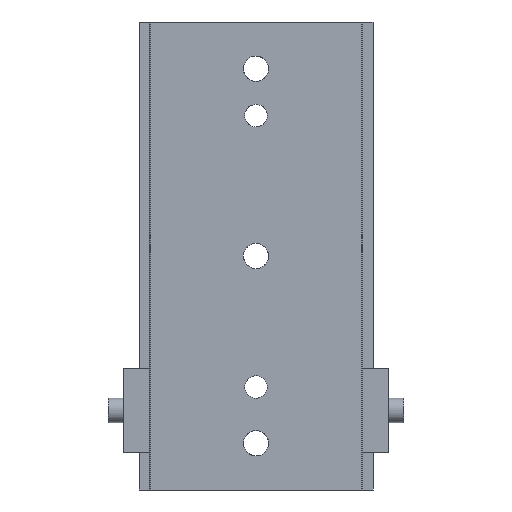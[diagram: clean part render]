
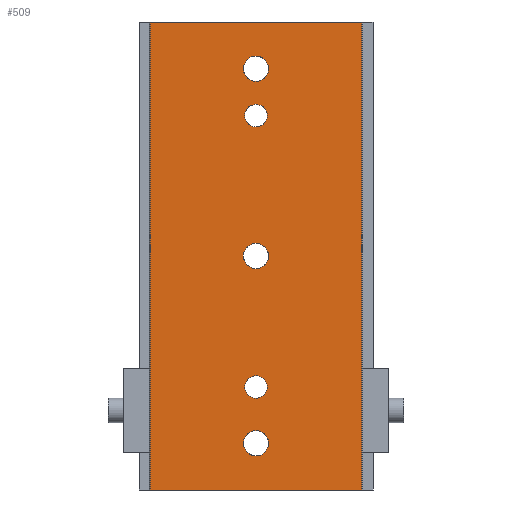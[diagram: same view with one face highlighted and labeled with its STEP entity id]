
A CAD part, front view. The second image highlights one B-rep face of the part: STEP entity #509.
In plain terms, the highlighted planar face has unit normal (0, -1, 0).
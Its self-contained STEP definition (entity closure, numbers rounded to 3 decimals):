
#77=CARTESIAN_POINT('Vertex',(-590.473,748.188,31.75)) ;
#80=CARTESIAN_POINT('Axis2P3D Location',(-590.473,748.188,25.)) ;
#84=CARTESIAN_POINT('Vertex',(-597.223,748.188,25.)) ;
#87=CARTESIAN_POINT('Axis2P3D Location',(-590.473,748.188,25.)) ;
#91=CARTESIAN_POINT('Vertex',(-590.473,748.188,18.25)) ;
#307=CARTESIAN_POINT('Axis2P3D Location',(-590.473,748.188,25.)) ;
#311=CARTESIAN_POINT('Vertex',(-583.723,748.188,25.)) ;
#314=CARTESIAN_POINT('Axis2P3D Location',(-590.473,748.188,25.)) ;
#328=CARTESIAN_POINT('Axis2P3D Location',(-646.973,748.188,250.)) ;
#333=CARTESIAN_POINT('Line Origine',(-590.473,748.188,0.)) ;
#337=CARTESIAN_POINT('Vertex',(-646.973,748.188,0.)) ;
#339=CARTESIAN_POINT('Vertex',(-533.973,748.188,0.)) ;
#342=CARTESIAN_POINT('Line Origine',(-533.973,748.188,125.)) ;
#346=CARTESIAN_POINT('Vertex',(-533.973,748.188,250.)) ;
#349=CARTESIAN_POINT('Line Origine',(-590.473,748.188,250.)) ;
#353=CARTESIAN_POINT('Vertex',(-646.973,748.188,250.)) ;
#356=CARTESIAN_POINT('Line Origine',(-646.973,748.188,125.)) ;
#367=CARTESIAN_POINT('Axis2P3D Location',(-590.473,748.188,200.)) ;
#371=CARTESIAN_POINT('Vertex',(-584.473,748.188,200.)) ;
#373=CARTESIAN_POINT('Vertex',(-590.473,748.188,194.)) ;
#376=CARTESIAN_POINT('Axis2P3D Location',(-590.473,748.188,200.)) ;
#380=CARTESIAN_POINT('Vertex',(-596.473,748.188,200.)) ;
#383=CARTESIAN_POINT('Axis2P3D Location',(-590.473,748.188,200.)) ;
#387=CARTESIAN_POINT('Vertex',(-590.473,748.188,206.)) ;
#390=CARTESIAN_POINT('Axis2P3D Location',(-590.473,748.188,200.)) ;
#401=CARTESIAN_POINT('Axis2P3D Location',(-590.473,748.188,55.)) ;
#405=CARTESIAN_POINT('Vertex',(-584.473,748.188,55.)) ;
#407=CARTESIAN_POINT('Vertex',(-590.473,748.188,49.)) ;
#410=CARTESIAN_POINT('Axis2P3D Location',(-590.473,748.188,55.)) ;
#414=CARTESIAN_POINT('Vertex',(-596.473,748.188,55.)) ;
#417=CARTESIAN_POINT('Axis2P3D Location',(-590.473,748.188,55.)) ;
#421=CARTESIAN_POINT('Vertex',(-590.473,748.188,61.)) ;
#424=CARTESIAN_POINT('Axis2P3D Location',(-590.473,748.188,55.)) ;
#435=CARTESIAN_POINT('Axis2P3D Location',(-590.473,748.188,225.)) ;
#439=CARTESIAN_POINT('Vertex',(-583.723,748.188,225.)) ;
#441=CARTESIAN_POINT('Vertex',(-590.473,748.188,218.25)) ;
#444=CARTESIAN_POINT('Axis2P3D Location',(-590.473,748.188,225.)) ;
#448=CARTESIAN_POINT('Vertex',(-597.223,748.188,225.)) ;
#451=CARTESIAN_POINT('Axis2P3D Location',(-590.473,748.188,225.)) ;
#455=CARTESIAN_POINT('Vertex',(-590.473,748.188,231.75)) ;
#458=CARTESIAN_POINT('Axis2P3D Location',(-590.473,748.188,225.)) ;
#469=CARTESIAN_POINT('Axis2P3D Location',(-590.473,748.188,125.)) ;
#473=CARTESIAN_POINT('Vertex',(-583.723,748.188,125.)) ;
#475=CARTESIAN_POINT('Vertex',(-590.473,748.188,118.25)) ;
#478=CARTESIAN_POINT('Axis2P3D Location',(-590.473,748.188,125.)) ;
#482=CARTESIAN_POINT('Vertex',(-597.223,748.188,125.)) ;
#485=CARTESIAN_POINT('Axis2P3D Location',(-590.473,748.188,125.)) ;
#489=CARTESIAN_POINT('Vertex',(-590.473,748.188,131.75)) ;
#492=CARTESIAN_POINT('Axis2P3D Location',(-590.473,748.188,125.)) ;
#81=DIRECTION('Axis2P3D Direction',(0.,-1.,0.)) ;
#88=DIRECTION('Axis2P3D Direction',(0.,-1.,0.)) ;
#308=DIRECTION('Axis2P3D Direction',(0.,-1.,0.)) ;
#315=DIRECTION('Axis2P3D Direction',(0.,-1.,0.)) ;
#329=DIRECTION('Axis2P3D Direction',(0.,1.,0.)) ;
#330=DIRECTION('Axis2P3D XDirection',(0.,-0.,1.)) ;
#334=DIRECTION('Vector Direction',(1.,0.,0.)) ;
#343=DIRECTION('Vector Direction',(0.,0.,-1.)) ;
#350=DIRECTION('Vector Direction',(1.,0.,0.)) ;
#357=DIRECTION('Vector Direction',(0.,0.,-1.)) ;
#368=DIRECTION('Axis2P3D Direction',(0.,1.,0.)) ;
#377=DIRECTION('Axis2P3D Direction',(0.,1.,0.)) ;
#384=DIRECTION('Axis2P3D Direction',(0.,1.,0.)) ;
#391=DIRECTION('Axis2P3D Direction',(0.,1.,0.)) ;
#402=DIRECTION('Axis2P3D Direction',(0.,1.,0.)) ;
#411=DIRECTION('Axis2P3D Direction',(0.,1.,0.)) ;
#418=DIRECTION('Axis2P3D Direction',(0.,1.,0.)) ;
#425=DIRECTION('Axis2P3D Direction',(0.,1.,0.)) ;
#436=DIRECTION('Axis2P3D Direction',(0.,1.,0.)) ;
#445=DIRECTION('Axis2P3D Direction',(0.,1.,0.)) ;
#452=DIRECTION('Axis2P3D Direction',(0.,1.,0.)) ;
#459=DIRECTION('Axis2P3D Direction',(0.,1.,0.)) ;
#470=DIRECTION('Axis2P3D Direction',(0.,1.,0.)) ;
#479=DIRECTION('Axis2P3D Direction',(0.,1.,0.)) ;
#486=DIRECTION('Axis2P3D Direction',(0.,1.,0.)) ;
#493=DIRECTION('Axis2P3D Direction',(0.,1.,0.)) ;
#82=AXIS2_PLACEMENT_3D('Circle Axis2P3D',#80,#81,$) ;
#89=AXIS2_PLACEMENT_3D('Circle Axis2P3D',#87,#88,$) ;
#309=AXIS2_PLACEMENT_3D('Circle Axis2P3D',#307,#308,$) ;
#316=AXIS2_PLACEMENT_3D('Circle Axis2P3D',#314,#315,$) ;
#331=AXIS2_PLACEMENT_3D('Plane Axis2P3D',#328,#329,#330) ;
#369=AXIS2_PLACEMENT_3D('Circle Axis2P3D',#367,#368,$) ;
#378=AXIS2_PLACEMENT_3D('Circle Axis2P3D',#376,#377,$) ;
#385=AXIS2_PLACEMENT_3D('Circle Axis2P3D',#383,#384,$) ;
#392=AXIS2_PLACEMENT_3D('Circle Axis2P3D',#390,#391,$) ;
#403=AXIS2_PLACEMENT_3D('Circle Axis2P3D',#401,#402,$) ;
#412=AXIS2_PLACEMENT_3D('Circle Axis2P3D',#410,#411,$) ;
#419=AXIS2_PLACEMENT_3D('Circle Axis2P3D',#417,#418,$) ;
#426=AXIS2_PLACEMENT_3D('Circle Axis2P3D',#424,#425,$) ;
#437=AXIS2_PLACEMENT_3D('Circle Axis2P3D',#435,#436,$) ;
#446=AXIS2_PLACEMENT_3D('Circle Axis2P3D',#444,#445,$) ;
#453=AXIS2_PLACEMENT_3D('Circle Axis2P3D',#451,#452,$) ;
#460=AXIS2_PLACEMENT_3D('Circle Axis2P3D',#458,#459,$) ;
#471=AXIS2_PLACEMENT_3D('Circle Axis2P3D',#469,#470,$) ;
#480=AXIS2_PLACEMENT_3D('Circle Axis2P3D',#478,#479,$) ;
#487=AXIS2_PLACEMENT_3D('Circle Axis2P3D',#485,#486,$) ;
#494=AXIS2_PLACEMENT_3D('Circle Axis2P3D',#492,#493,$) ;
#362=ORIENTED_EDGE('',*,*,#341,.T.) ;
#363=ORIENTED_EDGE('',*,*,#348,.F.) ;
#364=ORIENTED_EDGE('',*,*,#355,.F.) ;
#365=ORIENTED_EDGE('',*,*,#360,.T.) ;
#396=ORIENTED_EDGE('',*,*,#375,.T.) ;
#397=ORIENTED_EDGE('',*,*,#382,.T.) ;
#398=ORIENTED_EDGE('',*,*,#389,.T.) ;
#399=ORIENTED_EDGE('',*,*,#394,.T.) ;
#430=ORIENTED_EDGE('',*,*,#409,.T.) ;
#431=ORIENTED_EDGE('',*,*,#416,.T.) ;
#432=ORIENTED_EDGE('',*,*,#423,.T.) ;
#433=ORIENTED_EDGE('',*,*,#428,.T.) ;
#464=ORIENTED_EDGE('',*,*,#443,.T.) ;
#465=ORIENTED_EDGE('',*,*,#450,.T.) ;
#466=ORIENTED_EDGE('',*,*,#457,.T.) ;
#467=ORIENTED_EDGE('',*,*,#462,.T.) ;
#498=ORIENTED_EDGE('',*,*,#477,.T.) ;
#499=ORIENTED_EDGE('',*,*,#484,.T.) ;
#500=ORIENTED_EDGE('',*,*,#491,.T.) ;
#501=ORIENTED_EDGE('',*,*,#496,.T.) ;
#504=ORIENTED_EDGE('',*,*,#313,.T.) ;
#505=ORIENTED_EDGE('',*,*,#93,.T.) ;
#506=ORIENTED_EDGE('',*,*,#86,.T.) ;
#507=ORIENTED_EDGE('',*,*,#318,.T.) ;
#400=FACE_BOUND('',#395,.T.) ;
#434=FACE_BOUND('',#429,.T.) ;
#468=FACE_BOUND('',#463,.T.) ;
#502=FACE_BOUND('',#497,.T.) ;
#508=FACE_BOUND('',#503,.T.) ;
#335=VECTOR('Line Direction',#334,1.) ;
#344=VECTOR('Line Direction',#343,1.) ;
#351=VECTOR('Line Direction',#350,1.) ;
#358=VECTOR('Line Direction',#357,1.) ;
#509=ADVANCED_FACE('A945-03-1225-01-S-BC',(#366,#400,#434,#468,#502,#508),#332,.F.) ;
#83=CIRCLE('generated circle',#82,6.75) ;
#90=CIRCLE('generated circle',#89,6.75) ;
#310=CIRCLE('generated circle',#309,6.75) ;
#317=CIRCLE('generated circle',#316,6.75) ;
#370=CIRCLE('generated circle',#369,6.) ;
#379=CIRCLE('generated circle',#378,6.) ;
#386=CIRCLE('generated circle',#385,6.) ;
#393=CIRCLE('generated circle',#392,6.) ;
#404=CIRCLE('generated circle',#403,6.) ;
#413=CIRCLE('generated circle',#412,6.) ;
#420=CIRCLE('generated circle',#419,6.) ;
#427=CIRCLE('generated circle',#426,6.) ;
#438=CIRCLE('generated circle',#437,6.75) ;
#447=CIRCLE('generated circle',#446,6.75) ;
#454=CIRCLE('generated circle',#453,6.75) ;
#461=CIRCLE('generated circle',#460,6.75) ;
#472=CIRCLE('generated circle',#471,6.75) ;
#481=CIRCLE('generated circle',#480,6.75) ;
#488=CIRCLE('generated circle',#487,6.75) ;
#495=CIRCLE('generated circle',#494,6.75) ;
#86=EDGE_CURVE('',#85,#78,#83,.F.) ;
#93=EDGE_CURVE('',#92,#85,#90,.F.) ;
#313=EDGE_CURVE('',#312,#92,#310,.F.) ;
#318=EDGE_CURVE('',#78,#312,#317,.F.) ;
#341=EDGE_CURVE('',#338,#340,#336,.T.) ;
#348=EDGE_CURVE('',#347,#340,#345,.T.) ;
#355=EDGE_CURVE('',#354,#347,#352,.T.) ;
#360=EDGE_CURVE('',#354,#338,#359,.T.) ;
#375=EDGE_CURVE('',#372,#374,#370,.T.) ;
#382=EDGE_CURVE('',#374,#381,#379,.T.) ;
#389=EDGE_CURVE('',#381,#388,#386,.T.) ;
#394=EDGE_CURVE('',#388,#372,#393,.T.) ;
#409=EDGE_CURVE('',#406,#408,#404,.T.) ;
#416=EDGE_CURVE('',#408,#415,#413,.T.) ;
#423=EDGE_CURVE('',#415,#422,#420,.T.) ;
#428=EDGE_CURVE('',#422,#406,#427,.T.) ;
#443=EDGE_CURVE('',#440,#442,#438,.T.) ;
#450=EDGE_CURVE('',#442,#449,#447,.T.) ;
#457=EDGE_CURVE('',#449,#456,#454,.T.) ;
#462=EDGE_CURVE('',#456,#440,#461,.T.) ;
#477=EDGE_CURVE('',#474,#476,#472,.T.) ;
#484=EDGE_CURVE('',#476,#483,#481,.T.) ;
#491=EDGE_CURVE('',#483,#490,#488,.T.) ;
#496=EDGE_CURVE('',#490,#474,#495,.T.) ;
#361=EDGE_LOOP('',(#362,#363,#364,#365)) ;
#395=EDGE_LOOP('',(#396,#397,#398,#399)) ;
#429=EDGE_LOOP('',(#430,#431,#432,#433)) ;
#463=EDGE_LOOP('',(#464,#465,#466,#467)) ;
#497=EDGE_LOOP('',(#498,#499,#500,#501)) ;
#503=EDGE_LOOP('',(#504,#505,#506,#507)) ;
#366=FACE_OUTER_BOUND('',#361,.T.) ;
#336=LINE('Line',#333,#335) ;
#345=LINE('Line',#342,#344) ;
#352=LINE('Line',#349,#351) ;
#359=LINE('Line',#356,#358) ;
#332=PLANE('Plane',#331) ;
#78=VERTEX_POINT('',#77) ;
#85=VERTEX_POINT('',#84) ;
#92=VERTEX_POINT('',#91) ;
#312=VERTEX_POINT('',#311) ;
#338=VERTEX_POINT('',#337) ;
#340=VERTEX_POINT('',#339) ;
#347=VERTEX_POINT('',#346) ;
#354=VERTEX_POINT('',#353) ;
#372=VERTEX_POINT('',#371) ;
#374=VERTEX_POINT('',#373) ;
#381=VERTEX_POINT('',#380) ;
#388=VERTEX_POINT('',#387) ;
#406=VERTEX_POINT('',#405) ;
#408=VERTEX_POINT('',#407) ;
#415=VERTEX_POINT('',#414) ;
#422=VERTEX_POINT('',#421) ;
#440=VERTEX_POINT('',#439) ;
#442=VERTEX_POINT('',#441) ;
#449=VERTEX_POINT('',#448) ;
#456=VERTEX_POINT('',#455) ;
#474=VERTEX_POINT('',#473) ;
#476=VERTEX_POINT('',#475) ;
#483=VERTEX_POINT('',#482) ;
#490=VERTEX_POINT('',#489) ;
